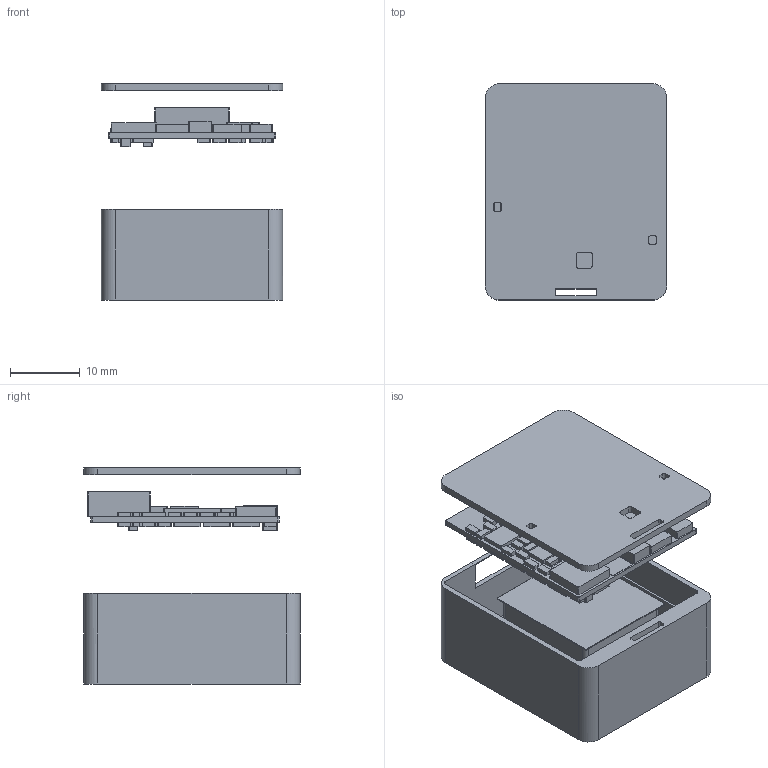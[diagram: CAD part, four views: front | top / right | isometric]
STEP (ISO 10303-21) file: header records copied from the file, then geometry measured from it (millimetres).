
FILE_DESCRIPTION(('SolidCraft model'),'2;1');
FILE_NAME('exploded.step','',(''),(''),'SolidCraft','SolidCraft','');
FILE_SCHEMA(('AP242_MANAGED_MODEL_BASED_3D_ENGINEERING_MIM_LF { 1 0 10303 442 1 1 4 }'));
Length unit declared in the file: millimetre
Products named in the file (1): exploded
Bounding box: 26 x 31 x 31 mm (x, y, z)
Volume: 6271.9 mm3; surface area: 11080.3 mm2
Topology: 94 solids, 94 shells, 1033 faces, 2644 edges, 1800 vertices
Faces by surface type: plane 613, cylinder 420
Entity records: 24091 total; most frequent: CARTESIAN_POINT 6269, ORIENTED_EDGE 5288, EDGE_CURVE 2644, LINE 1804, VERTEX_POINT 1800, EDGE_LOOP 1052, FACE_BOUND 1052, AXIS2_PLACEMENT_3D 1034
